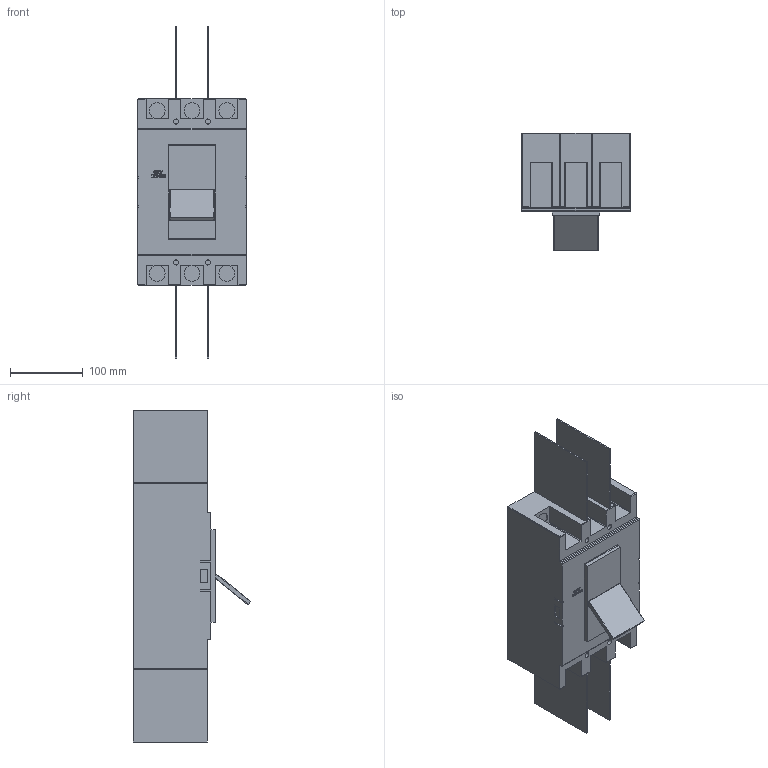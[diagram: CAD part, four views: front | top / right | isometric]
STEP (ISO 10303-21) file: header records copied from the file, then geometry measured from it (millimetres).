
FILE_DESCRIPTION(/* description */ ('','CAx-IF Rec.Pracs.---Representation and Presentation of Product Manufacturing Information (PMI)---3.8---2014-02-18'),/* implementation_level */ '2;1');
FILE_NAME(/* name */ 'C:\Users\ILYA\Desktop\NM1\Авт. выкл. NM1-400S3Р 250A 35кА (CHINT)\Авт. выкл. NM1-400S3Р 250A 35кА (CHINT).stp',/* time_stamp */ '2017-08-19T08:11:08+03:00',/* author */ ('ILYA'),/* organization */ (''),/* preprocessor_version */ 'ST-DEVELOPER v16.1',/* originating_system */ 'Autodesk Inventor 2016',/* authorisation */ '');
FILE_SCHEMA (('AP242_MANAGED_MODEL_BASED_3D_ENGINEERING_MIM_LF { 1 0 10303 442 1 1 4 }'));
Length unit declared in the file: millimetre
Products named in the file (1): Авт. выкл. NM1-40
0S3Р 250A 35кА (CHINT)
Bounding box: 150 x 161.79 x 457 mm (x, y, z)
Volume: 3900233 mm3; surface area: 278841.5 mm2
Topology: 1 solids, 1 shells, 338 faces, 908 edges, 596 vertices
Faces by surface type: plane 221, bspline 57, cylinder 52, torus 4, sphere 4
Full cylindrical faces by diameter (mm): 7 x4, 22 x6
Entity records: 10933 total; most frequent: CARTESIAN_POINT 2753, ORIENTED_EDGE 1784, DIRECTION 1444, EDGE_CURVE 892, LINE 668, VECTOR 668, VERTEX_POINT 590, AXIS2_PLACEMENT_3D 388
